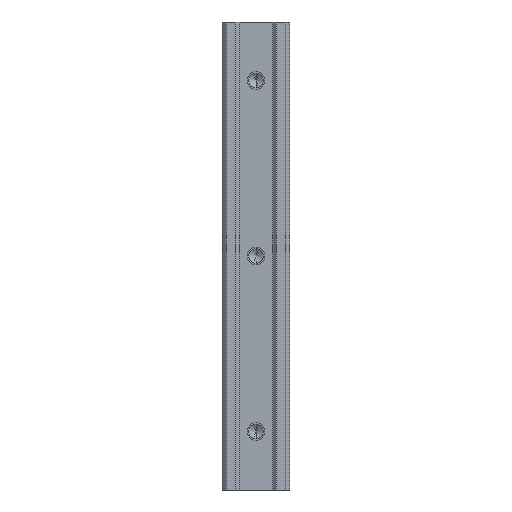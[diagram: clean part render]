
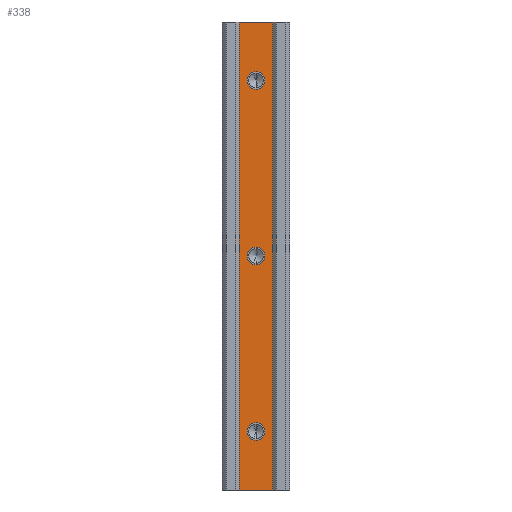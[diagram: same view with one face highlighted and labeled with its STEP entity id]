
A CAD part, front view. The second image highlights one B-rep face of the part: STEP entity #338.
In plain terms, the highlighted planar face has unit normal (0, -1, 0).
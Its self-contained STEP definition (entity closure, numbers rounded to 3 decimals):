
#41 = VERTEX_POINT ( 'NONE', #1397 ) ;
#93 = AXIS2_PLACEMENT_3D ( 'NONE', #177, #952, #1385 ) ;
#96 = ORIENTED_EDGE ( 'NONE', *, *, #824, .F. ) ;
#99 = ORIENTED_EDGE ( 'NONE', *, *, #151, .F. ) ;
#104 = EDGE_CURVE ( 'NONE', #699, #711, #1121, .T. ) ;
#127 = CARTESIAN_POINT ( 'NONE',  ( 0., 1.25, 0. ) ) ;
#137 = LINE ( 'NONE', #669, #493 ) ;
#151 = EDGE_CURVE ( 'NONE', #688, #1061, #198, .T. ) ;
#153 = CARTESIAN_POINT ( 'NONE',  ( -5.75, 1.25, -80. ) ) ;
#177 = CARTESIAN_POINT ( 'NONE',  ( 0., 1.25, -60. ) ) ;
#187 = CARTESIAN_POINT ( 'NONE',  ( 0., 1.25, 60. ) ) ;
#194 = DIRECTION ( 'NONE',  ( 0., 0., -1. ) ) ;
#198 = CIRCLE ( 'NONE', #1097, 3. ) ;
#218 = CARTESIAN_POINT ( 'NONE',  ( -5.75, 1.25, -80. ) ) ;
#229 = DIRECTION ( 'NONE',  ( 0., 0., -1. ) ) ;
#282 = FACE_BOUND ( 'NONE', #1148, .T. ) ;
#314 = ORIENTED_EDGE ( 'NONE', *, *, #878, .T. ) ;
#338 = ADVANCED_FACE ( 'NONE', ( #942, #927, #1236, #282 ), #1123, .F. ) ;
#358 = DIRECTION ( 'NONE',  ( 0., 1., 0. ) ) ;
#366 = AXIS2_PLACEMENT_3D ( 'NONE', #541, #991, #1139 ) ;
#389 = VERTEX_POINT ( 'NONE', #679 ) ;
#391 = CARTESIAN_POINT ( 'NONE',  ( -5.75, 1.25, -80. ) ) ;
#422 = VERTEX_POINT ( 'NONE', #1354 ) ;
#455 = ORIENTED_EDGE ( 'NONE', *, *, #1384, .F. ) ;
#493 = VECTOR ( 'NONE', #562, 1000. ) ;
#495 = AXIS2_PLACEMENT_3D ( 'NONE', #1406, #740, #735 ) ;
#504 = CARTESIAN_POINT ( 'NONE',  ( 0., 1.25, 57. ) ) ;
#508 = DIRECTION ( 'NONE',  ( -1., 0., 0. ) ) ;
#522 = EDGE_LOOP ( 'NONE', ( #1427, #800 ) ) ;
#541 = CARTESIAN_POINT ( 'NONE',  ( 0., 1.25, -60. ) ) ;
#543 = ORIENTED_EDGE ( 'NONE', *, *, #645, .F. ) ;
#550 = VERTEX_POINT ( 'NONE', #153 ) ;
#562 = DIRECTION ( 'NONE',  ( 0., 0., 1. ) ) ;
#636 = DIRECTION ( 'NONE',  ( 0., -1., 0. ) ) ;
#637 = CARTESIAN_POINT ( 'NONE',  ( 0., 1.25, 0. ) ) ;
#643 = CARTESIAN_POINT ( 'NONE',  ( 5.75, 1.25, -80. ) ) ;
#645 = EDGE_CURVE ( 'NONE', #1180, #550, #1358, .T. ) ;
#661 = CIRCLE ( 'NONE', #93, 3. ) ;
#669 = CARTESIAN_POINT ( 'NONE',  ( -5.75, 1.25, -80. ) ) ;
#677 = LINE ( 'NONE', #896, #940 ) ;
#679 = CARTESIAN_POINT ( 'NONE',  ( -5.75, 1.25, 80. ) ) ;
#688 = VERTEX_POINT ( 'NONE', #831 ) ;
#696 = ORIENTED_EDGE ( 'NONE', *, *, #1338, .F. ) ;
#699 = VERTEX_POINT ( 'NONE', #504 ) ;
#711 = VERTEX_POINT ( 'NONE', #1386 ) ;
#732 = VECTOR ( 'NONE', #508, 1000. ) ;
#735 = DIRECTION ( 'NONE',  ( 0., 0., -1. ) ) ;
#740 = DIRECTION ( 'NONE',  ( 0., -1., 0. ) ) ;
#749 = DIRECTION ( 'NONE',  ( 0., -1., 0. ) ) ;
#791 = VECTOR ( 'NONE', #1109, 1000. ) ;
#800 = ORIENTED_EDGE ( 'NONE', *, *, #1151, .F. ) ;
#824 = EDGE_CURVE ( 'NONE', #550, #389, #137, .T. ) ;
#831 = CARTESIAN_POINT ( 'NONE',  ( 0., 1.25, -3. ) ) ;
#841 = EDGE_LOOP ( 'NONE', ( #1298, #96, #543, #314 ) ) ;
#878 = EDGE_CURVE ( 'NONE', #1180, #422, #677, .T. ) ;
#896 = CARTESIAN_POINT ( 'NONE',  ( 5.75, 1.25, -80. ) ) ;
#897 = CIRCLE ( 'NONE', #1205, 3. ) ;
#911 = CIRCLE ( 'NONE', #1260, 3. ) ;
#927 = FACE_BOUND ( 'NONE', #522, .T. ) ;
#940 = VECTOR ( 'NONE', #1267, 1000. ) ;
#942 = FACE_BOUND ( 'NONE', #1304, .T. ) ;
#952 = DIRECTION ( 'NONE',  ( 0., -1., 0. ) ) ;
#969 = ORIENTED_EDGE ( 'NONE', *, *, #1039, .F. ) ;
#991 = DIRECTION ( 'NONE',  ( 0., -1., 0. ) ) ;
#1001 = DIRECTION ( 'NONE',  ( 0., 0., 1. ) ) ;
#1039 = EDGE_CURVE ( 'NONE', #1321, #41, #661, .T. ) ;
#1061 = VERTEX_POINT ( 'NONE', #1401 ) ;
#1072 = CIRCLE ( 'NONE', #366, 3. ) ;
#1097 = AXIS2_PLACEMENT_3D ( 'NONE', #637, #749, #194 ) ;
#1109 = DIRECTION ( 'NONE',  ( -1., 0., 0. ) ) ;
#1121 = CIRCLE ( 'NONE', #495, 3. ) ;
#1122 = DIRECTION ( 'NONE',  ( 0., -1., 0. ) ) ;
#1123 = PLANE ( 'NONE',  #1356 ) ;
#1139 = DIRECTION ( 'NONE',  ( 0., 0., -1. ) ) ;
#1148 = EDGE_LOOP ( 'NONE', ( #696, #969 ) ) ;
#1151 = EDGE_CURVE ( 'NONE', #711, #699, #897, .T. ) ;
#1180 = VERTEX_POINT ( 'NONE', #643 ) ;
#1203 = DIRECTION ( 'NONE',  ( 0., 0., -1. ) ) ;
#1205 = AXIS2_PLACEMENT_3D ( 'NONE', #187, #636, #1203 ) ;
#1236 = FACE_OUTER_BOUND ( 'NONE', #841, .T. ) ;
#1260 = AXIS2_PLACEMENT_3D ( 'NONE', #127, #1122, #229 ) ;
#1267 = DIRECTION ( 'NONE',  ( 0., 0., 1. ) ) ;
#1282 = LINE ( 'NONE', #1447, #791 ) ;
#1298 = ORIENTED_EDGE ( 'NONE', *, *, #1320, .T. ) ;
#1304 = EDGE_LOOP ( 'NONE', ( #99, #455 ) ) ;
#1320 = EDGE_CURVE ( 'NONE', #422, #389, #1282, .T. ) ;
#1321 = VERTEX_POINT ( 'NONE', #1329 ) ;
#1329 = CARTESIAN_POINT ( 'NONE',  ( 0., 1.25, -57. ) ) ;
#1338 = EDGE_CURVE ( 'NONE', #41, #1321, #1072, .T. ) ;
#1354 = CARTESIAN_POINT ( 'NONE',  ( 5.75, 1.25, 80. ) ) ;
#1356 = AXIS2_PLACEMENT_3D ( 'NONE', #218, #358, #1001 ) ;
#1358 = LINE ( 'NONE', #391, #732 ) ;
#1384 = EDGE_CURVE ( 'NONE', #1061, #688, #911, .T. ) ;
#1385 = DIRECTION ( 'NONE',  ( 0., 0., -1. ) ) ;
#1386 = CARTESIAN_POINT ( 'NONE',  ( 0., 1.25, 63. ) ) ;
#1397 = CARTESIAN_POINT ( 'NONE',  ( 0., 1.25, -63. ) ) ;
#1401 = CARTESIAN_POINT ( 'NONE',  ( 0., 1.25, 3. ) ) ;
#1406 = CARTESIAN_POINT ( 'NONE',  ( 0., 1.25, 60. ) ) ;
#1427 = ORIENTED_EDGE ( 'NONE', *, *, #104, .F. ) ;
#1447 = CARTESIAN_POINT ( 'NONE',  ( -5.75, 1.25, 80. ) ) ;
